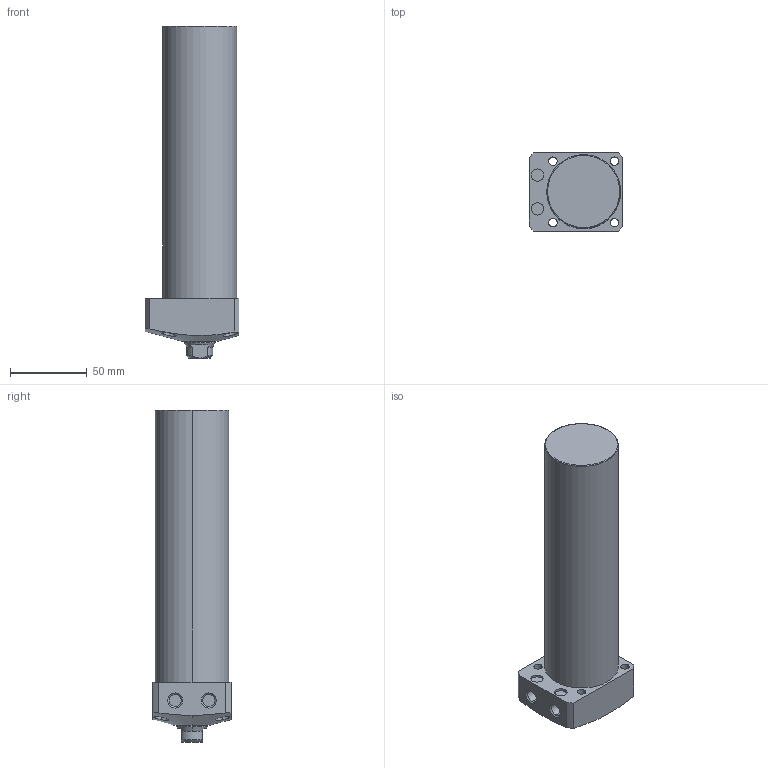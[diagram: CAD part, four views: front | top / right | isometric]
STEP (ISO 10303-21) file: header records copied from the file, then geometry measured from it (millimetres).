
FILE_DESCRIPTION (( 'STEP AP203' ), '1' );
FILE_NAME ('CLL-048CA-150.STEP', '2019-12-21T07:29:27', ( '' ), ( '' ), 'SwSTEP 2.0', 'SolidWorks 2015', '' );
FILE_SCHEMA (( 'CONFIG_CONTROL_DESIGN' ));
Length unit declared in the file: millimetre
Products named in the file (1): CLL-048CA-150
Bounding box: 61 x 51 x 216 mm (x, y, z)
Volume: 394492 mm3; surface area: 41467.4 mm2
Topology: 1 solids, 1 shells, 74 faces, 170 edges, 107 vertices
Faces by surface type: cylinder 35, plane 22, cone 15, torus 2
Entity records: 2535 total; most frequent: CARTESIAN_POINT 748, DIRECTION 374, ORIENTED_EDGE 336, EDGE_CURVE 168, AXIS2_PLACEMENT_3D 155, VERTEX_POINT 107, EDGE_LOOP 93, CIRCLE 80
